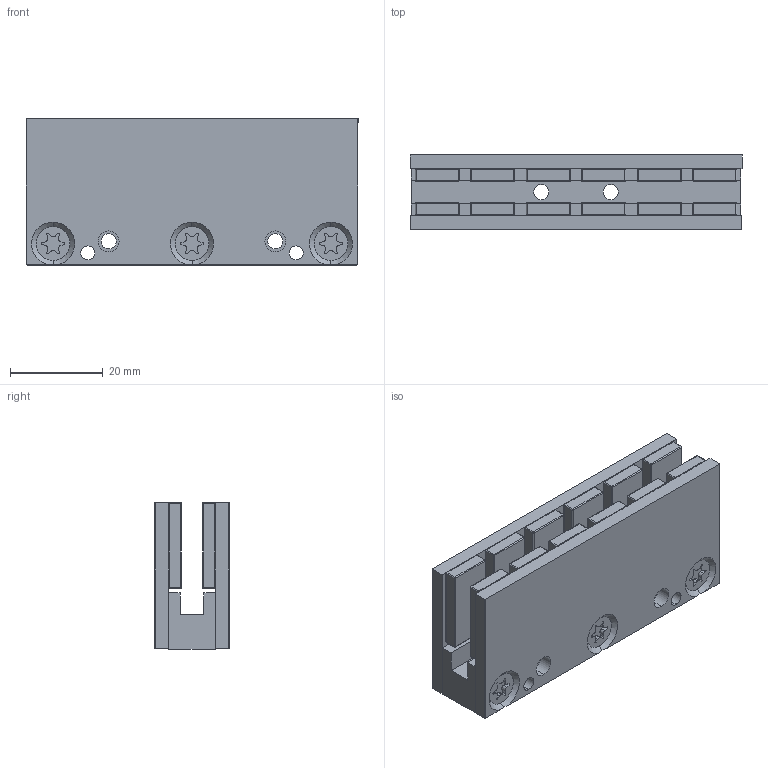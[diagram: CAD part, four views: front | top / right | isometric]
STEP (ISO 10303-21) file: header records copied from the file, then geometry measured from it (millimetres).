
FILE_DESCRIPTION (( 'STEP AP203' ), '1' );
FILE_NAME ('MY32-72 3D.STEP', '2020-10-11T01:43:41', ( '' ), ( '' ), 'SwSTEP 2.0', 'SolidWorks 2018', '' );
FILE_SCHEMA (( 'CONFIG_CONTROL_DESIGN' ));
Length unit declared in the file: millimetre
Products named in the file (6): CP32-72; CS32-72; MY44 screw; IL34 magnet; MY32-72 3D; MP34-72
Assembly tree (28 placements, depth 3):
  MY32-72 3D
    MP34-72  x2
      CP32-72
      IL34 magnet
    CS32-72
    MY44 screw  x6
Bounding box: 71.7 x 16.15 x 31.7 mm (x, y, z)
Surface area: 34084.4 mm2
Topology: 45 solids, 45 shells, 1256 faces, 2866 edges, 1412 vertices
Faces by surface type: cylinder 592, plane 332, sphere 288, cone 44
Entity records: 5278 total; most frequent: DIRECTION 778, CARTESIAN_POINT 700, ORIENTED_EDGE 644, EDGE_CURVE 322, AXIS2_PLACEMENT_3D 302, VERTEX_POINT 200, LINE 174, VECTOR 174
